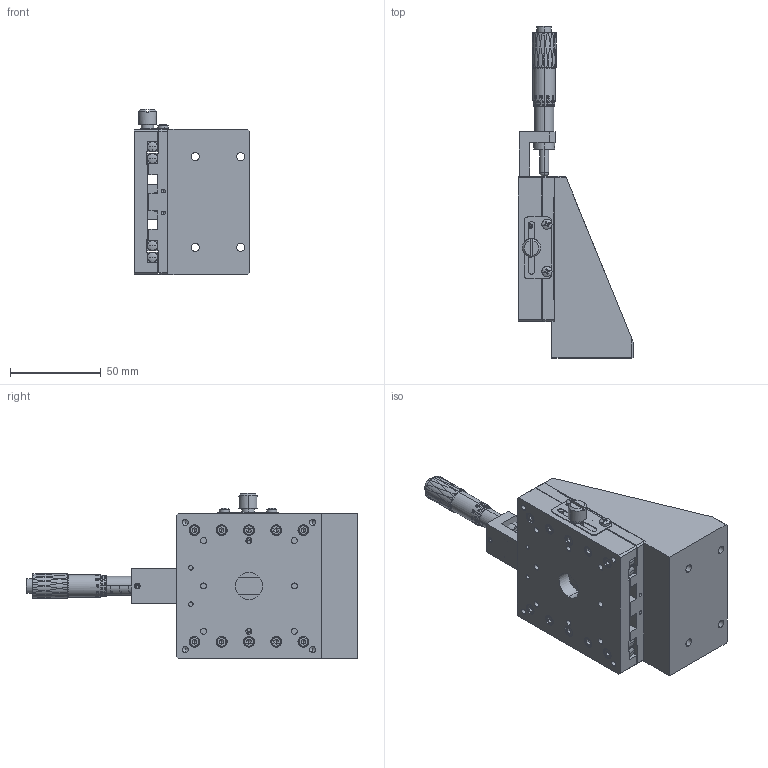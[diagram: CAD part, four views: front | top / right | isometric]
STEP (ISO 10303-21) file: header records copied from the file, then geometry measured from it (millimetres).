
FILE_DESCRIPTION (( 'STEP AP203' ), '1' );
FILE_NAME ('BVZ80.STEP', '2023-12-05T00:16:17', ( 'China' ), ( 'Microsoft' ), 'SwSTEP 2.0', 'SolidWorks 2024', '' );
FILE_SCHEMA (( 'CONFIG_CONTROL_DESIGN' ));
Products named in the file (1): BVZ80
Bounding box: 63.5 x 182.7 x 91 mm (x, y, z)
Volume: 222809.3 mm3; surface area: 95328.8 mm2
Topology: 38 solids, 38 shells, 2204 faces, 5550 edges, 3505 vertices
Faces by surface type: plane 672, cylinder 570, bspline 562, cone 332, torus 62, sphere 6
Entity records: 108058 total; most frequent: CARTESIAN_POINT 59927, ORIENTED_EDGE 10904, DIRECTION 8228, EDGE_CURVE 5452, VERTEX_POINT 3505, AXIS2_PLACEMENT_3D 3181, EDGE_LOOP 2555, ADVANCED_FACE 2204
